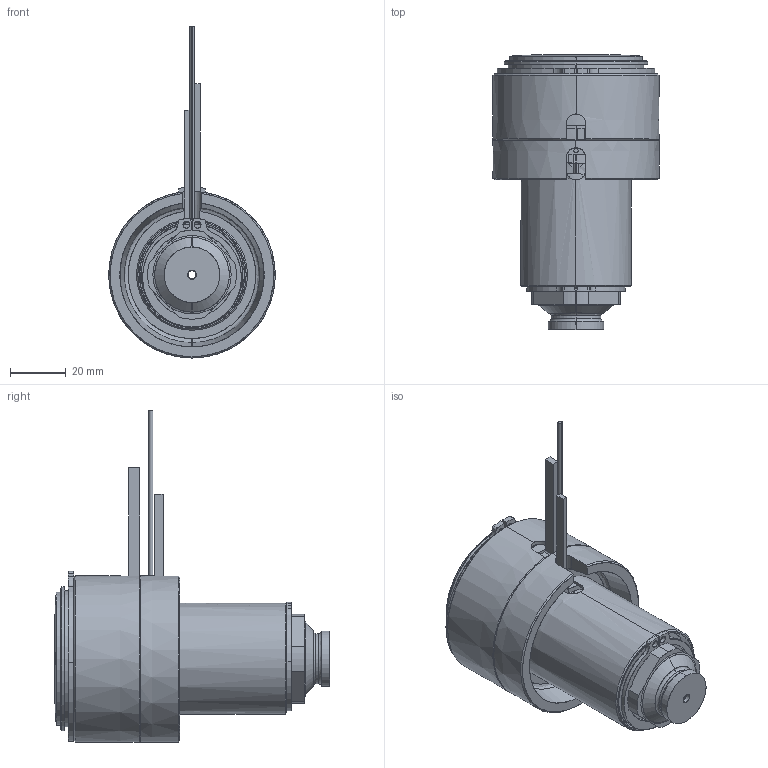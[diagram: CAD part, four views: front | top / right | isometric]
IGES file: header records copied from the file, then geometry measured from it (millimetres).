
Start section: SolidWorks IGES file using analytic representation for surfaces
Global section: file name: C:\Documents and Settings\ws-20\Desktop\TEM\UGER6602-M-A-1 [Øb-2.9 P-0 ØC-16].IGS; native system: SolidWorks 2012; preprocessor: SolidWorks 2012; author: ws-20; date: 120417.123247; units: millimetre
Bounding box: 60 x 99.25 x 119.65 mm (x, y, z)
Surface area: 59704.3 mm2 (no closed solid volume)
Topology: 0 solids, 0 shells, 170 faces, 3342 edges, 3342 vertices
Faces by surface type: revolution 100, bspline 70
